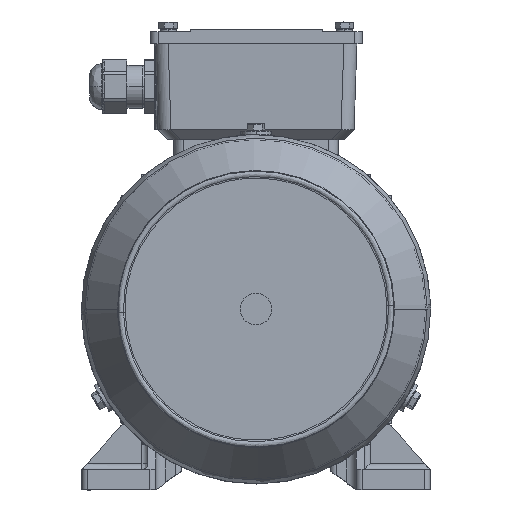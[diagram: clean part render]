
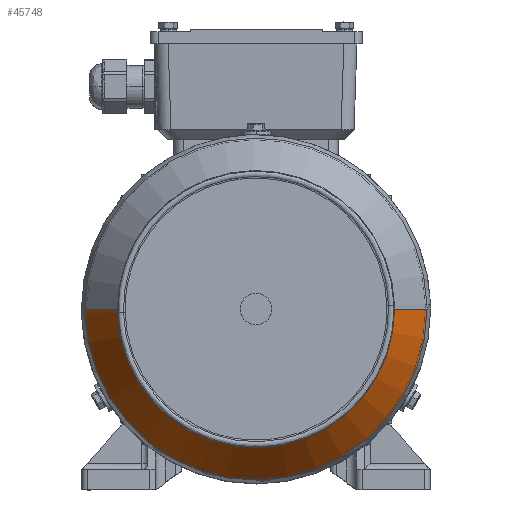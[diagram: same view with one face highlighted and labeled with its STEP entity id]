
A CAD part, top view. The second image highlights one B-rep face of the part: STEP entity #45748.
In plain terms, the highlighted conical face has half-angle 35 degrees and reference radius 85.492 mm.
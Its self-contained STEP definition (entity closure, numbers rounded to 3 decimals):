
#1493 = ORIENTED_EDGE ( 'NONE', *, *, #101785, .F. ) ;
#3438 = DIRECTION ( 'NONE',  ( 0., 0., -1. ) ) ;
#3669 = CIRCLE ( 'NONE', #94600, 69.281 ) ;
#8641 = DIRECTION ( 'NONE',  ( -1., -0.028, 0. ) ) ;
#8666 = ORIENTED_EDGE ( 'NONE', *, *, #85296, .T. ) ;
#8691 = AXIS2_PLACEMENT_3D ( 'NONE', #91250, #32106, #101089 ) ;
#13157 = AXIS2_PLACEMENT_3D ( 'NONE', #74735, #15644, #84668 ) ;
#15644 = DIRECTION ( 'NONE',  ( 0., 0., -1. ) ) ;
#19244 = VECTOR ( 'NONE', #71526, 1000. ) ;
#19359 = CARTESIAN_POINT ( 'NONE',  ( -63.103, -5.982, 181.831 ) ) ;
#23253 = EDGE_LOOP ( 'NONE', ( #1493, #114017, #39407, #8666, #64629, #64797 ) ) ;
#23868 = CARTESIAN_POINT ( 'NONE',  ( 91.643, -4.037, 158.68 ) ) ;
#25670 = CARTESIAN_POINT ( 'NONE',  ( -79.34, -4.037, 158.68 ) ) ;
#27235 = VECTOR ( 'NONE', #115159, 1000. ) ;
#32106 = DIRECTION ( 'NONE',  ( 0., 0., -1. ) ) ;
#34401 = CIRCLE ( 'NONE', #8691, 69.281 ) ;
#38801 = EDGE_CURVE ( 'NONE', #109234, #121178, #94873, .T. ) ;
#39407 = ORIENTED_EDGE ( 'NONE', *, *, #86996, .T. ) ;
#45748 = ADVANCED_FACE ( 'NONE', ( #83040 ), #126264, .T. ) ;
#54435 = EDGE_CURVE ( 'NONE', #77613, #121192, #3669, .T. ) ;
#56064 = DIRECTION ( 'NONE',  ( 0., 0., -1. ) ) ;
#62521 = CARTESIAN_POINT ( 'NONE',  ( 6.151, -4.037, 158.68 ) ) ;
#64629 = ORIENTED_EDGE ( 'NONE', *, *, #88860, .F. ) ;
#64797 = ORIENTED_EDGE ( 'NONE', *, *, #38801, .F. ) ;
#67140 = CARTESIAN_POINT ( 'NONE',  ( -63.13, -4.037, 181.831 ) ) ;
#67684 = DIRECTION ( 'NONE',  ( 0., 0., -1. ) ) ;
#69151 = AXIS2_PLACEMENT_3D ( 'NONE', #62521, #3438, #72434 ) ;
#71243 = CIRCLE ( 'NONE', #69151, 85.492 ) ;
#71526 = DIRECTION ( 'NONE',  ( -0.574, 0., -0.819 ) ) ;
#72434 = DIRECTION ( 'NONE',  ( -1., -0.028, 0. ) ) ;
#74735 = CARTESIAN_POINT ( 'NONE',  ( 6.151, -4.037, 158.68 ) ) ;
#76920 = CARTESIAN_POINT ( 'NONE',  ( 75.433, -4.037, 181.831 ) ) ;
#77213 = VERTEX_POINT ( 'NONE', #67140 ) ;
#77613 = VERTEX_POINT ( 'NONE', #76920 ) ;
#79358 = AXIS2_PLACEMENT_3D ( 'NONE', #115531, #56064, #95700 ) ;
#79751 = LINE ( 'NONE', #105226, #27235 ) ;
#83040 = FACE_OUTER_BOUND ( 'NONE', #23253, .T. ) ;
#84668 = DIRECTION ( 'NONE',  ( -1., -0.028, 0. ) ) ;
#85296 = EDGE_CURVE ( 'NONE', #77213, #116890, #94823, .T. ) ;
#86996 = EDGE_CURVE ( 'NONE', #121192, #77213, #34401, .T. ) ;
#88860 = EDGE_CURVE ( 'NONE', #121178, #116890, #71243, .T. ) ;
#91250 = CARTESIAN_POINT ( 'NONE',  ( 6.151, -4.037, 181.831 ) ) ;
#94600 = AXIS2_PLACEMENT_3D ( 'NONE', #126807, #67684, #8641 ) ;
#94823 = LINE ( 'NONE', #95552, #19244 ) ;
#94873 = CIRCLE ( 'NONE', #13157, 85.492 ) ;
#95552 = CARTESIAN_POINT ( 'NONE',  ( -79.34, -4.037, 158.68 ) ) ;
#95700 = DIRECTION ( 'NONE',  ( -1., 0., 0. ) ) ;
#101089 = DIRECTION ( 'NONE',  ( -1., -0.028, 0. ) ) ;
#101785 = EDGE_CURVE ( 'NONE', #77613, #109234, #79751, .T. ) ;
#105226 = CARTESIAN_POINT ( 'NONE',  ( 91.643, -4.037, 158.68 ) ) ;
#107723 = CARTESIAN_POINT ( 'NONE',  ( -79.307, -6.437, 158.68 ) ) ;
#109234 = VERTEX_POINT ( 'NONE', #23868 ) ;
#114017 = ORIENTED_EDGE ( 'NONE', *, *, #54435, .T. ) ;
#115159 = DIRECTION ( 'NONE',  ( 0.574, 0., -0.819 ) ) ;
#115531 = CARTESIAN_POINT ( 'NONE',  ( 6.151, -4.037, 158.68 ) ) ;
#116890 = VERTEX_POINT ( 'NONE', #25670 ) ;
#121178 = VERTEX_POINT ( 'NONE', #107723 ) ;
#121192 = VERTEX_POINT ( 'NONE', #19359 ) ;
#126264 = CONICAL_SURFACE ( 'NONE', #79358, 85.492, 0.611 ) ;
#126807 = CARTESIAN_POINT ( 'NONE',  ( 6.151, -4.037, 181.831 ) ) ;
